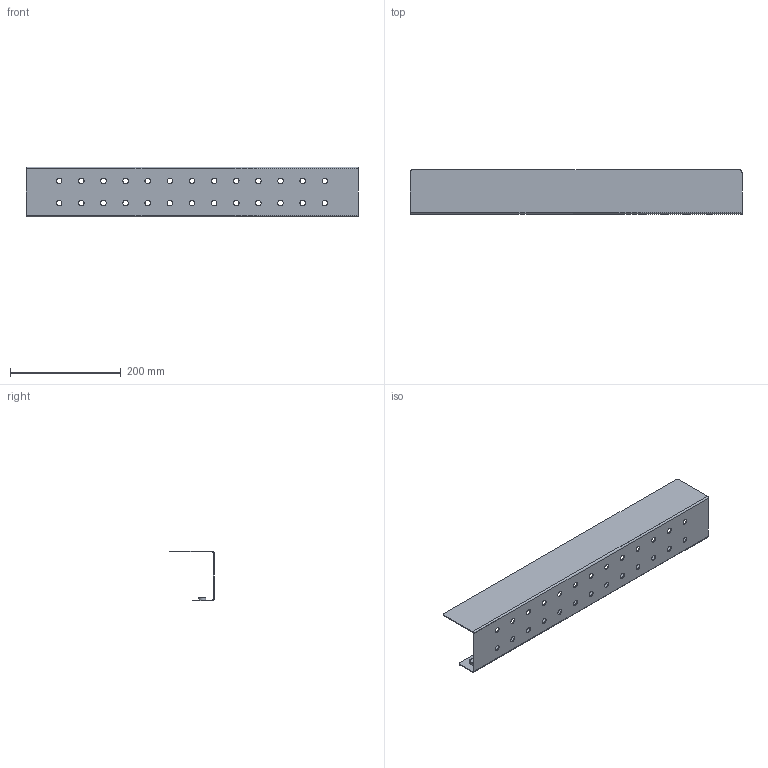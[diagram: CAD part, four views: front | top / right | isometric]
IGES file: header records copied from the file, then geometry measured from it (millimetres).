
Global section: file name: Półka Docia 60cm,2; native system: 2HAutodesk Inventor 2018; preprocessor: unknown; author: Marcel; date: 20200214.142943; units: millimetre
Bounding box: 600 x 80 x 90 mm (x, y, z)
Volume: 182691.6 mm3; surface area: 246040.4 mm2
Topology: 1 solids, 1 shells, 62 faces, 184 edges, 128 vertices
Faces by surface type: bspline 62
